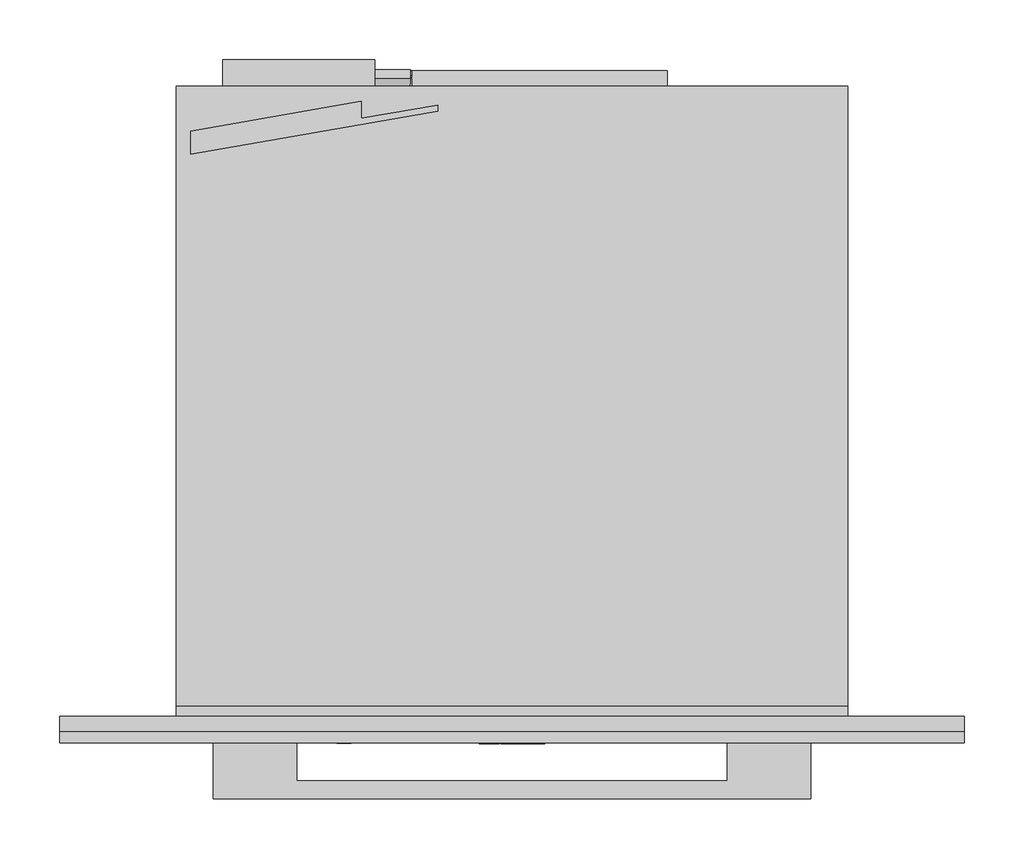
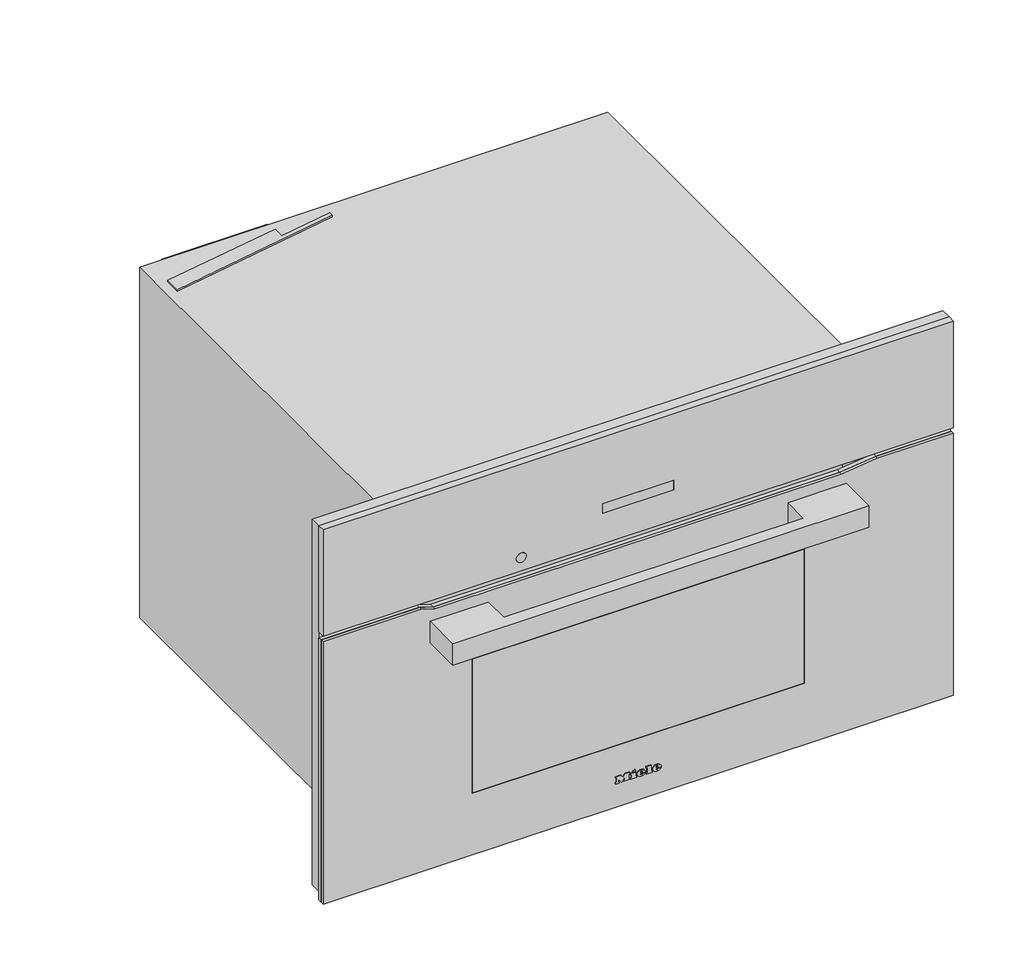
# Not in any storey: 1 proxy.
"""IFC4 building model written with IfcOpenShell, lengths in millimetres."""

from ifc_helpers import new_model, si_unit, origin, place, context, project, spatial, transform, mapped, element, save
from components import specialty_equipment_ef1cf0d7

model = new_model("IFC4")

# Units and contexts
model_context = context("Model", 3, world=origin())
ifc_project = project(units=[si_unit("LENGTHUNIT", "METRE", prefix="MILLI")], contexts=[model_context])

# Site, building
site = spatial("IfcSite", under=ifc_project)
building = spatial("IfcBuilding", under=site)

# Proxy
placement = place(None, origin())
specialty_equipment_shape = specialty_equipment_ef1cf0d7(model_context)
element("IfcBuildingElementProxy", 1, Name="11804580_USA_H7270BM_GRGR : 22727036_USA_11804580_H7270BM_GRGR", ObjectType="11804580_USA_H7270BM_GRGR : 22727036_USA_11804580_H7270BM_GRGR", at=placement, inside=building, context=model_context, shape_type="MappedRepresentation", body=[
    mapped(specialty_equipment_shape, transform((0.0, 0.0, 0.0), x_axis=(1.0, 0.0, 0.0), y_axis=(0.0, 1.0, 0.0), z_axis=(0.0, 0.0, 1.0))),
])

save(model, "model.ifc")
